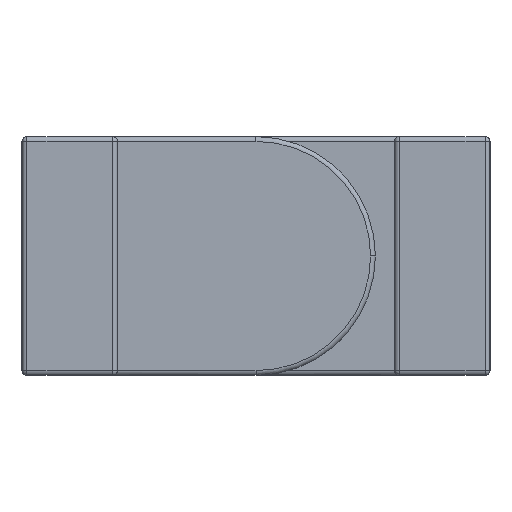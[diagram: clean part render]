
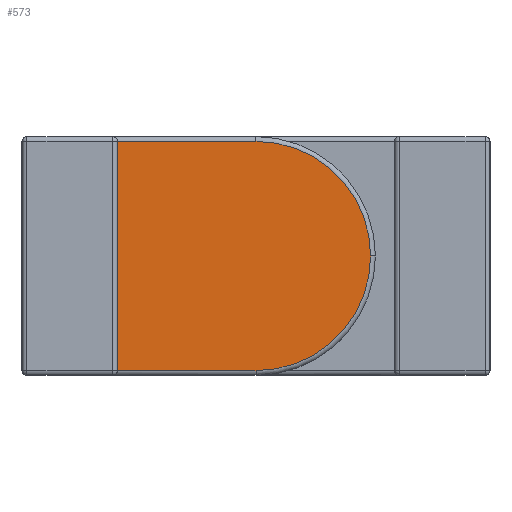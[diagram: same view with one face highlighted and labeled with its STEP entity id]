
A CAD part, left-side view. The second image highlights one B-rep face of the part: STEP entity #573.
In plain terms, the highlighted planar face has unit normal (-1, 0, 0) as drawn and (1, 0, 0) by its records, which use the part's own axes.
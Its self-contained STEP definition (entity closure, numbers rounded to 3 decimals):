
#62 = CARTESIAN_POINT ( 'NONE',  ( 39., 10., -12. ) ) ;
#69 = ORIENTED_EDGE ( 'NONE', *, *, #618, .T. ) ;
#145 = CIRCLE ( 'NONE', #687, 12. ) ;
#204 = CIRCLE ( 'NONE', #1769, 12. ) ;
#262 = LINE ( 'NONE', #721, #2521 ) ;
#296 = CARTESIAN_POINT ( 'NONE',  ( 39., 37., 12. ) ) ;
#305 = FACE_OUTER_BOUND ( 'NONE', #859, .T. ) ;
#310 = VECTOR ( 'NONE', #2430, 1000. ) ;
#477 = CARTESIAN_POINT ( 'NONE',  ( 39., 24.5, 0. ) ) ;
#573 = ADVANCED_FACE ( 'NONE', ( #305 ), #758, .F. ) ;
#599 = DIRECTION ( 'NONE',  ( 1., 0., 0. ) ) ;
#618 = EDGE_CURVE ( 'NONE', #1001, #2501, #145, .T. ) ;
#687 = AXIS2_PLACEMENT_3D ( 'NONE', #1823, #599, #2498 ) ;
#721 = CARTESIAN_POINT ( 'NONE',  ( 39., 24.5, -12. ) ) ;
#758 = PLANE ( 'NONE',  #1750 ) ;
#859 = EDGE_LOOP ( 'NONE', ( #902, #1397, #2431, #69, #2534 ) ) ;
#902 = ORIENTED_EDGE ( 'NONE', *, *, #1471, .F. ) ;
#913 = DIRECTION ( 'NONE',  ( 0., 1., 0. ) ) ;
#1001 = VERTEX_POINT ( 'NONE', #2617 ) ;
#1120 = DIRECTION ( 'NONE',  ( 0., -1., 0. ) ) ;
#1163 = DIRECTION ( 'NONE',  ( -1., 0., 0. ) ) ;
#1386 = EDGE_CURVE ( 'NONE', #2501, #2494, #2255, .T. ) ;
#1397 = ORIENTED_EDGE ( 'NONE', *, *, #2451, .T. ) ;
#1471 = EDGE_CURVE ( 'NONE', #1979, #2494, #2712, .T. ) ;
#1750 = AXIS2_PLACEMENT_3D ( 'NONE', #2409, #1163, #2182 ) ;
#1757 = CARTESIAN_POINT ( 'NONE',  ( 39., 10., 12. ) ) ;
#1769 = AXIS2_PLACEMENT_3D ( 'NONE', #477, #2170, #1120 ) ;
#1823 = CARTESIAN_POINT ( 'NONE',  ( 39., 24.5, 0. ) ) ;
#1979 = VERTEX_POINT ( 'NONE', #62 ) ;
#2072 = DIRECTION ( 'NONE',  ( 0., 0., 1. ) ) ;
#2170 = DIRECTION ( 'NONE',  ( 1., 0., 0. ) ) ;
#2182 = DIRECTION ( 'NONE',  ( 0., -1., 0. ) ) ;
#2221 = VECTOR ( 'NONE', #2072, 1000. ) ;
#2255 = LINE ( 'NONE', #296, #310 ) ;
#2327 = CARTESIAN_POINT ( 'NONE',  ( 39., 24.5, -12. ) ) ;
#2332 = VERTEX_POINT ( 'NONE', #2327 ) ;
#2382 = CARTESIAN_POINT ( 'NONE',  ( 39., 24.5, 12. ) ) ;
#2409 = CARTESIAN_POINT ( 'NONE',  ( 39., 37., -12.5 ) ) ;
#2430 = DIRECTION ( 'NONE',  ( 0., -1., 0. ) ) ;
#2431 = ORIENTED_EDGE ( 'NONE', *, *, #2551, .T. ) ;
#2451 = EDGE_CURVE ( 'NONE', #1979, #2332, #262, .T. ) ;
#2494 = VERTEX_POINT ( 'NONE', #1757 ) ;
#2498 = DIRECTION ( 'NONE',  ( 0., -1., 0. ) ) ;
#2501 = VERTEX_POINT ( 'NONE', #2382 ) ;
#2521 = VECTOR ( 'NONE', #913, 1000. ) ;
#2534 = ORIENTED_EDGE ( 'NONE', *, *, #1386, .T. ) ;
#2551 = EDGE_CURVE ( 'NONE', #2332, #1001, #204, .T. ) ;
#2617 = CARTESIAN_POINT ( 'NONE',  ( 39., 36.5, 0. ) ) ;
#2712 = LINE ( 'NONE', #2736, #2221 ) ;
#2736 = CARTESIAN_POINT ( 'NONE',  ( 39., 10., -12.5 ) ) ;
